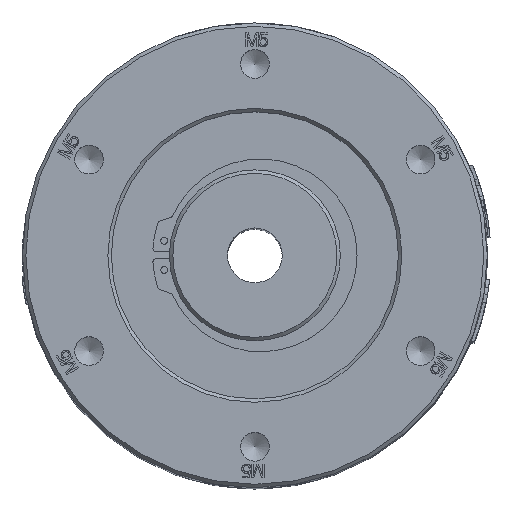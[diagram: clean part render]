
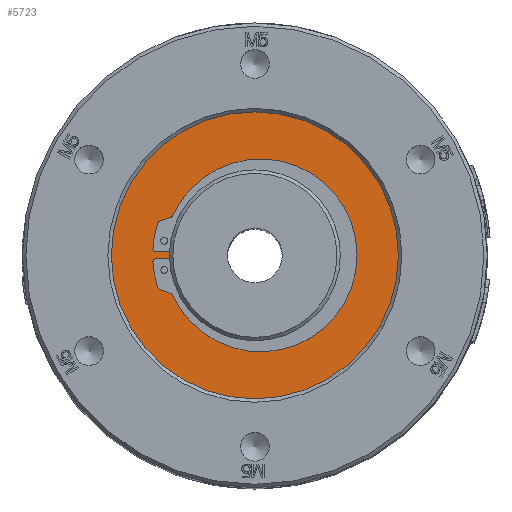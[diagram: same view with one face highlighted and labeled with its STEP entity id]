
A CAD part, top view. The second image highlights one B-rep face of the part: STEP entity #5723.
In plain terms, the highlighted planar face has unit normal (0, 0, 1).
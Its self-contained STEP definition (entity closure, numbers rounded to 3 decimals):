
#54=(
BOUNDED_CURVE()
B_SPLINE_CURVE(3,(#59481,#59482,#59483,#59484,#59485,#59486,#59487),
 .UNSPECIFIED.,.F.,.F.)
B_SPLINE_CURVE_WITH_KNOTS((4,3,4),(0.,0.5,1.),.UNSPECIFIED.)
CURVE()
GEOMETRIC_REPRESENTATION_ITEM()
RATIONAL_B_SPLINE_CURVE((1.,0.345,0.345,1.,0.345,
0.345,1.))
REPRESENTATION_ITEM('')
);
#55=(
BOUNDED_CURVE()
B_SPLINE_CURVE(3,(#59522,#59523,#59524,#59525,#59526,#59527,#59528),
 .UNSPECIFIED.,.F.,.F.)
B_SPLINE_CURVE_WITH_KNOTS((4,3,4),(0.,0.5,1.),.UNSPECIFIED.)
CURVE()
GEOMETRIC_REPRESENTATION_ITEM()
RATIONAL_B_SPLINE_CURVE((1.,0.345,0.345,1.,0.345,
0.345,1.))
REPRESENTATION_ITEM('')
);
#242=FACE_BOUND('',#9900,.T.);
#243=FACE_BOUND('',#9901,.T.);
#599=CIRCLE('',#33477,12.5);
#621=CIRCLE('',#33507,14.1);
#622=CIRCLE('',#33511,14.95);
#623=CIRCLE('',#33513,0.5);
#624=CIRCLE('',#33517,14.95);
#625=CIRCLE('',#33521,0.5);
#626=CIRCLE('',#33523,0.5);
#628=CIRCLE('',#33528,0.5);
#629=CIRCLE('',#33530,0.5);
#630=CIRCLE('',#33532,0.5);
#631=CIRCLE('',#33535,21.);
#2437=LINE('',#59504,#4055);
#2440=LINE('',#59509,#4058);
#2447=LINE('',#59548,#4065);
#2451=LINE('',#59558,#4069);
#4055=VECTOR('',#36753,1.);
#4058=VECTOR('',#36758,1.);
#4065=VECTOR('',#36777,1.);
#4069=VECTOR('',#36787,1.);
#5723=ADVANCED_FACE('',(#242,#243),#6792,.F.);
#6792=PLANE('',#33536);
#9900=EDGE_LOOP('',(#16357,#16358,#16359,#16360,#16361,#16362,#16363,#16364,
#16365,#16366,#16367,#16368,#16369,#16370,#16371,#16372));
#9901=EDGE_LOOP('',(#16373));
#16357=ORIENTED_EDGE('',*,*,#27143,.F.);
#16358=ORIENTED_EDGE('',*,*,#27166,.T.);
#16359=ORIENTED_EDGE('',*,*,#27148,.F.);
#16360=ORIENTED_EDGE('',*,*,#27151,.T.);
#16361=ORIENTED_EDGE('',*,*,#27146,.T.);
#16362=ORIENTED_EDGE('',*,*,#27105,.T.);
#16363=ORIENTED_EDGE('',*,*,#27156,.T.);
#16364=ORIENTED_EDGE('',*,*,#27163,.T.);
#16365=ORIENTED_EDGE('',*,*,#27157,.F.);
#16366=ORIENTED_EDGE('',*,*,#27164,.T.);
#16367=ORIENTED_EDGE('',*,*,#27161,.F.);
#16368=ORIENTED_EDGE('',*,*,#27168,.T.);
#16369=ORIENTED_EDGE('',*,*,#27152,.F.);
#16370=ORIENTED_EDGE('',*,*,#27137,.F.);
#16371=ORIENTED_EDGE('',*,*,#27141,.F.);
#16372=ORIENTED_EDGE('',*,*,#27167,.T.);
#16373=ORIENTED_EDGE('',*,*,#27169,.F.);
#22700=VERTEX_POINT('',#59388);
#22702=VERTEX_POINT('',#59392);
#22731=VERTEX_POINT('',#59474);
#22732=VERTEX_POINT('',#59475);
#22733=VERTEX_POINT('',#59480);
#22734=VERTEX_POINT('',#59503);
#22735=VERTEX_POINT('',#59505);
#22736=VERTEX_POINT('',#59510);
#22737=VERTEX_POINT('',#59514);
#22738=VERTEX_POINT('',#59515);
#22739=VERTEX_POINT('',#59529);
#22740=VERTEX_POINT('',#59547);
#22741=VERTEX_POINT('',#59551);
#22742=VERTEX_POINT('',#59552);
#22743=VERTEX_POINT('',#59557);
#22744=VERTEX_POINT('',#59559);
#22746=VERTEX_POINT('',#59579);
#27105=EDGE_CURVE('',#22700,#22702,#599,.T.);
#27137=EDGE_CURVE('',#22731,#22732,#621,.T.);
#27141=EDGE_CURVE('',#22733,#22731,#54,.T.);
#27143=EDGE_CURVE('',#22734,#22735,#2437,.T.);
#27146=EDGE_CURVE('',#22736,#22700,#2440,.T.);
#27148=EDGE_CURVE('',#22737,#22738,#622,.T.);
#27151=EDGE_CURVE('',#22737,#22736,#623,.T.);
#27152=EDGE_CURVE('',#22732,#22739,#55,.T.);
#27156=EDGE_CURVE('',#22702,#22740,#2447,.T.);
#27157=EDGE_CURVE('',#22741,#22742,#624,.T.);
#27161=EDGE_CURVE('',#22743,#22744,#2451,.T.);
#27163=EDGE_CURVE('',#22740,#22742,#625,.T.);
#27164=EDGE_CURVE('',#22741,#22744,#626,.T.);
#27166=EDGE_CURVE('',#22734,#22738,#628,.T.);
#27167=EDGE_CURVE('',#22733,#22735,#629,.T.);
#27168=EDGE_CURVE('',#22743,#22739,#630,.T.);
#27169=EDGE_CURVE('',#22746,#22746,#631,.T.);
#33477=AXIS2_PLACEMENT_3D('',#59393,#36677,#36678);
#33507=AXIS2_PLACEMENT_3D('',#59473,#36745,#36746);
#33511=AXIS2_PLACEMENT_3D('',#59513,#36762,#36763);
#33513=AXIS2_PLACEMENT_3D('',#59519,#36768,#36769);
#33517=AXIS2_PLACEMENT_3D('',#59550,#36780,#36781);
#33521=AXIS2_PLACEMENT_3D('',#59563,#36793,#36794);
#33523=AXIS2_PLACEMENT_3D('',#59565,#36797,#36798);
#33528=AXIS2_PLACEMENT_3D('',#59571,#36807,#36808);
#33530=AXIS2_PLACEMENT_3D('',#59573,#36811,#36812);
#33532=AXIS2_PLACEMENT_3D('',#59575,#36815,#36816);
#33535=AXIS2_PLACEMENT_3D('',#59578,#36821,#36822);
#33536=AXIS2_PLACEMENT_3D('',#59580,#36823,#36824);
#36677=DIRECTION('',(0.,0.,-1.));
#36678=DIRECTION('',(-1.,0.,0.));
#36745=DIRECTION('',(0.,0.,1.));
#36746=DIRECTION('',(-1.,0.,0.));
#36753=DIRECTION('',(0.94,-0.342,0.));
#36758=DIRECTION('',(1.,0.,0.));
#36762=DIRECTION('',(0.,0.,1.));
#36763=DIRECTION('',(-1.,0.,0.));
#36768=DIRECTION('',(0.,0.,-1.));
#36769=DIRECTION('',(-1.,0.,0.));
#36777=DIRECTION('',(-1.,0.,0.));
#36780=DIRECTION('',(0.,0.,1.));
#36781=DIRECTION('',(-1.,0.,0.));
#36787=DIRECTION('',(-0.94,-0.342,0.));
#36793=DIRECTION('',(0.,0.,-1.));
#36794=DIRECTION('',(-1.,0.,0.));
#36797=DIRECTION('',(0.,0.,-1.));
#36798=DIRECTION('',(-1.,0.,0.));
#36807=DIRECTION('',(0.,0.,-1.));
#36808=DIRECTION('',(-1.,0.,0.));
#36811=DIRECTION('',(0.,0.,1.));
#36812=DIRECTION('',(-1.,0.,0.));
#36815=DIRECTION('',(0.,0.,1.));
#36816=DIRECTION('',(-1.,0.,0.));
#36821=DIRECTION('',(0.,0.,-1.));
#36822=DIRECTION('',(-1.,0.,0.));
#36823=DIRECTION('',(0.,0.,-1.));
#36824=DIRECTION('',(-1.,0.,0.));
#59388=CARTESIAN_POINT('',(-12.49,-0.5,109.5));
#59392=CARTESIAN_POINT('',(-12.49,0.5,109.5));
#59393=CARTESIAN_POINT('',(0.,0.,109.5));
#59473=CARTESIAN_POINT('',(0.85,0.,109.5));
#59474=CARTESIAN_POINT('',(-9.311,-9.776,109.5));
#59475=CARTESIAN_POINT('',(-9.311,9.776,109.5));
#59480=CARTESIAN_POINT('',(-11.987,-5.832,109.5));
#59481=CARTESIAN_POINT('',(-13.241,-0.5,109.5));
#59482=CARTESIAN_POINT('',(-12.275,-27.713,109.5));
#59483=CARTESIAN_POINT('',(14.95,-27.23,109.5));
#59484=CARTESIAN_POINT('',(14.95,0.,109.5));
#59485=CARTESIAN_POINT('',(14.95,27.23,109.5));
#59486=CARTESIAN_POINT('',(-12.275,27.713,109.5));
#59487=CARTESIAN_POINT('',(-13.241,0.5,109.5));
#59503=CARTESIAN_POINT('',(-13.89,-4.977,109.5));
#59504=CARTESIAN_POINT('',(-3.225,-8.861,109.5));
#59505=CARTESIAN_POINT('',(-12.271,-5.569,109.5));
#59509=CARTESIAN_POINT('',(0.,-0.5,109.5));
#59510=CARTESIAN_POINT('',(-14.415,-0.5,109.5));
#59513=CARTESIAN_POINT('',(0.,0.,109.5));
#59514=CARTESIAN_POINT('',(-14.914,-1.035,109.5));
#59515=CARTESIAN_POINT('',(-14.205,-4.662,109.5));
#59519=CARTESIAN_POINT('',(-14.415,-1.,109.5));
#59522=CARTESIAN_POINT('',(-13.241,-0.5,109.5));
#59523=CARTESIAN_POINT('',(-12.275,-27.713,109.5));
#59524=CARTESIAN_POINT('',(14.95,-27.23,109.5));
#59525=CARTESIAN_POINT('',(14.95,0.,109.5));
#59526=CARTESIAN_POINT('',(14.95,27.23,109.5));
#59527=CARTESIAN_POINT('',(-12.275,27.713,109.5));
#59528=CARTESIAN_POINT('',(-13.241,0.5,109.5));
#59529=CARTESIAN_POINT('',(-11.987,5.832,109.5));
#59547=CARTESIAN_POINT('',(-14.415,0.5,109.5));
#59548=CARTESIAN_POINT('',(0.,0.5,109.5));
#59550=CARTESIAN_POINT('',(0.,0.,109.5));
#59551=CARTESIAN_POINT('',(-14.205,4.662,109.5));
#59552=CARTESIAN_POINT('',(-14.914,1.035,109.5));
#59557=CARTESIAN_POINT('',(-12.271,5.569,109.5));
#59558=CARTESIAN_POINT('',(-3.225,8.861,109.5));
#59559=CARTESIAN_POINT('',(-13.889,4.978,109.5));
#59563=CARTESIAN_POINT('',(-14.415,1.,109.5));
#59565=CARTESIAN_POINT('',(-13.73,4.506,109.5));
#59571=CARTESIAN_POINT('',(-13.73,-4.506,109.5));
#59573=CARTESIAN_POINT('',(-12.442,-6.038,109.5));
#59575=CARTESIAN_POINT('',(-12.442,6.038,109.5));
#59578=CARTESIAN_POINT('',(0.,0.,109.5));
#59579=CARTESIAN_POINT('',(-21.,0.,109.5));
#59580=CARTESIAN_POINT('',(0.,0.,109.5));
